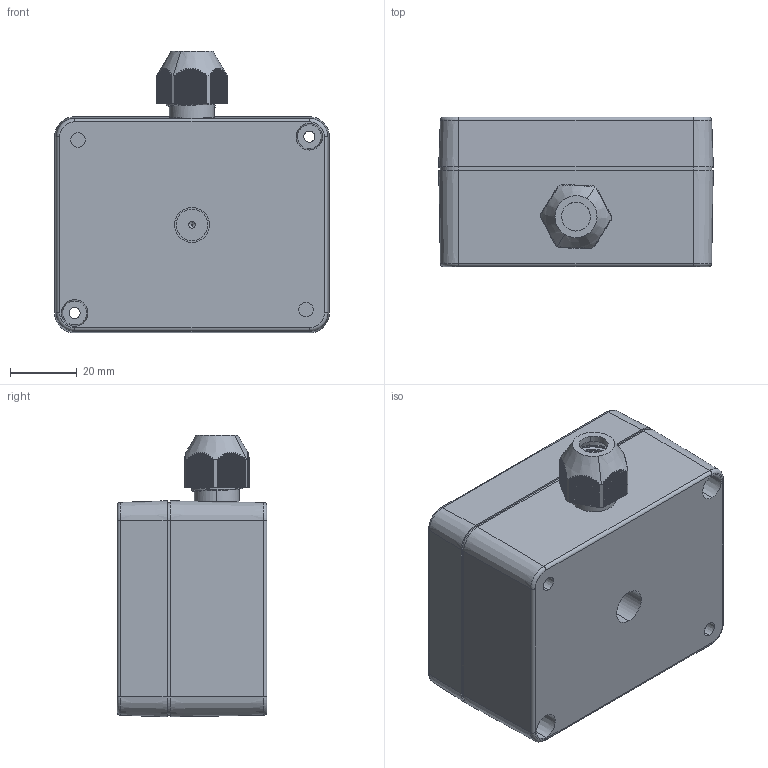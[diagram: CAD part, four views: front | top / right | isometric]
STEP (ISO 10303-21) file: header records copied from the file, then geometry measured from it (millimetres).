
FILE_DESCRIPTION (( 'STEP AP203' ), '1' );
FILE_NAME ('PB520.STEP', '2018-09-28T11:29:49', ( '' ), ( '' ), 'SwSTEP 2.0', 'SolidWorks 2018', '' );
FILE_SCHEMA (( 'CONFIG_CONTROL_DESIGN' ));
Length unit declared in the file: millimetre
Products named in the file (4): PB520
Assembly tree (3 placements, depth 2):
  PB520
    PB520
    PB520
    PB520
Bounding box: 82.6 x 45 x 84.76 mm (x, y, z)
Volume: 74069.5 mm3; surface area: 58720.4 mm2
Topology: 4 solids, 4 shells, 821 faces, 2222 edges, 1464 vertices
Faces by surface type: plane 418, cylinder 234, bspline 103, cone 58, torus 8
Entity records: 39411 total; most frequent: CARTESIAN_POINT 19724, ORIENTED_EDGE 4444, DIRECTION 3349, EDGE_CURVE 2222, VERTEX_POINT 1464, VECTOR 1131, LINE 1131, AXIS2_PLACEMENT_3D 1109
